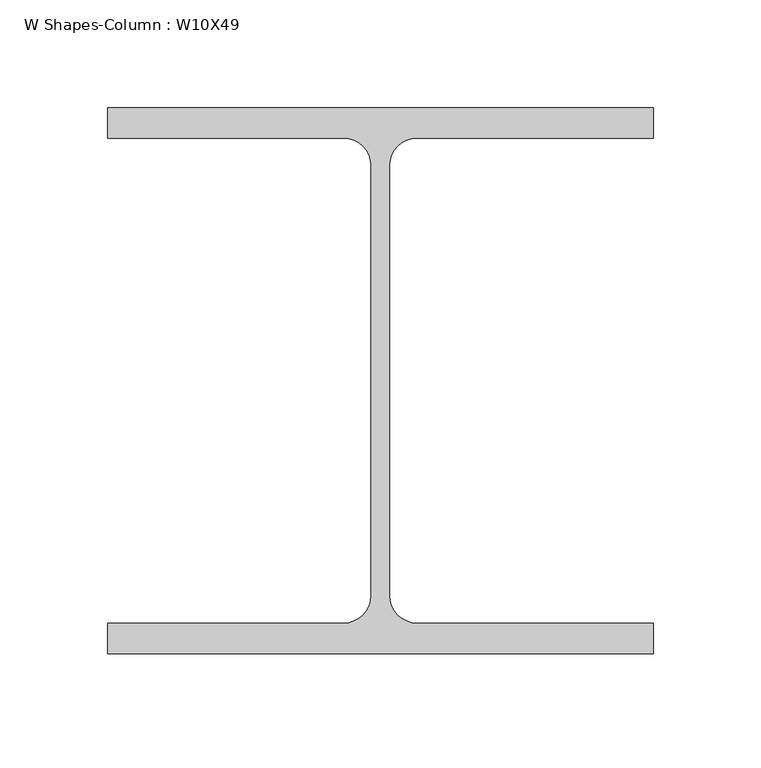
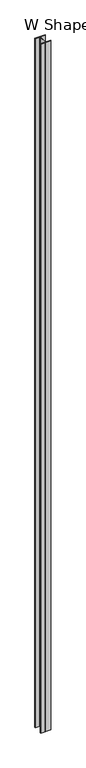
"""IFC4 building model written with IfcOpenShell, lengths in millimetres: column geometry, W Shapes-Column : W10X49."""

from ifc_helpers import new_model, si_unit, point, frame_2d, origin, origin_with_axes, place, context, project, spatial, polyline, circle_curve, trimmed, segment, composite_curve, outline, extrude, source, transform, mapped, element, save


def w_shapes_column_w10x49_ccd02eb2(model_context):
    return source(origin(), model_context, "Body", "SweptSolid", [
        extrude(outline(composite_curve([segment(polyline([(127.0, 127.0), (127.0, 112.776), (17.018, 112.776)]), True, "CONTINUOUS"), segment(trimmed(circle_curve(frame_2d((17.018, 100.076)), 12.7), [point((17.018, 112.776))], [point((4.318, 100.076))], True, "CARTESIAN"), True, "CONTINUOUS"), segment(polyline([(4.318, 100.076), (4.318, -100.076)]), True, "CONTINUOUS"), segment(trimmed(circle_curve(frame_2d((17.018, -100.076)), 12.7), [point((4.318, -100.076))], [point((17.018, -112.776))], True, "CARTESIAN"), True, "CONTINUOUS"), segment(polyline([(17.018, -112.776), (127.0, -112.776), (127.0, -127.0), (-127.0, -127.0), (-127.0, -112.776), (-17.018, -112.776)]), True, "CONTINUOUS"), segment(trimmed(circle_curve(frame_2d((-17.018, -100.076)), 12.7), [point((-17.018, -112.776))], [point((-4.318, -100.076))], True, "CARTESIAN"), True, "CONTINUOUS"), segment(polyline([(-4.318, -100.076), (-4.318, 100.076)]), True, "CONTINUOUS"), segment(trimmed(circle_curve(frame_2d((-17.018, 100.076)), 12.7), [point((-4.318, 100.076))], [point((-17.018, 112.776))], True, "CARTESIAN"), True, "CONTINUOUS"), segment(polyline([(-17.018, 112.776), (-127.0, 112.776), (-127.0, 127.0), (127.0, 127.0)]), True, "CONTINUOUS")], self_intersect=False)), origin_with_axes(), (0.0, 0.0, 1.0), 18288.0),
    ])


if __name__ == "__main__":
    model = new_model("IFC4")
    model_context = context("Model", 3, world=origin())
    ifc_project = project(units=[si_unit("LENGTHUNIT", "METRE", prefix="MILLI")], contexts=[model_context])
    site = spatial("IfcSite", under=ifc_project)
    building = spatial("IfcBuilding", under=site)
    placement = place(None, origin())
    w_shapes_column_w10x49_shape = w_shapes_column_w10x49_ccd02eb2(model_context)
    element("IfcColumn", 1, ObjectType="W Shapes-Column : W10X49", at=placement, inside=building, context=model_context, shape_type="MappedRepresentation", body=[
        mapped(w_shapes_column_w10x49_shape, transform((0.0, 0.0, 0.0), x_axis=(1.0, 0.0, 0.0), y_axis=(0.0, 1.0, 0.0), z_axis=(0.0, 0.0, 1.0))),
    ])
    save(model, "model.ifc")
